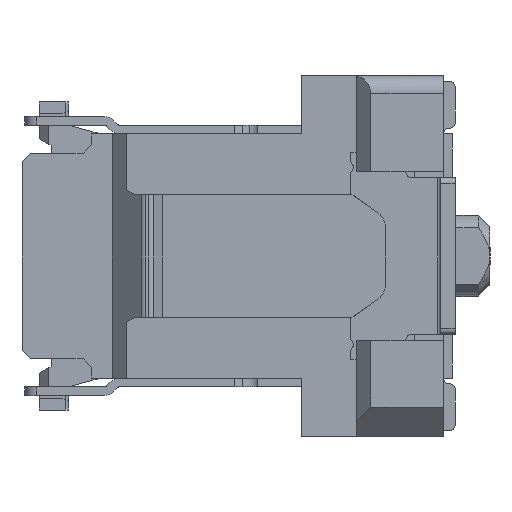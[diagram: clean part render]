
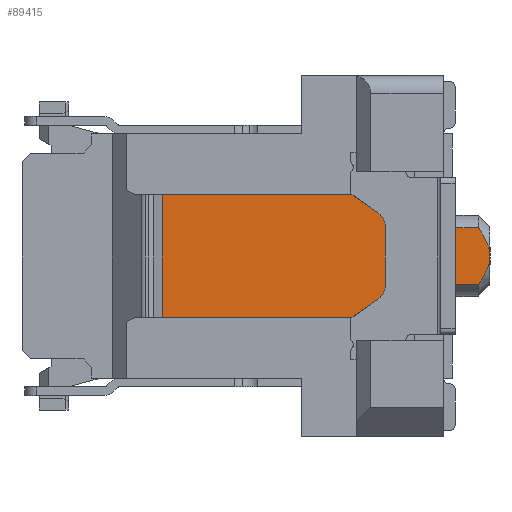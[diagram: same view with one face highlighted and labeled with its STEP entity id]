
A CAD part, left-side view. The second image highlights one B-rep face of the part: STEP entity #89415.
In plain terms, the highlighted planar face has unit normal (-1, 0, 0).
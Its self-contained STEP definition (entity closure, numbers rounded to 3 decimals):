
#376 = CARTESIAN_POINT ( 'NONE',  ( -11.85, -0.6, -0.089 ) ) ;
#2098 = DIRECTION ( 'NONE',  ( 0., -1., 0. ) ) ;
#3744 = CARTESIAN_POINT ( 'NONE',  ( -11.85, 0.2, 1.2 ) ) ;
#5060 = ORIENTED_EDGE ( 'NONE', *, *, #40711, .T. ) ;
#5566 = B_SPLINE_CURVE_WITH_KNOTS ( 'NONE', 3,
 ( #106678, #376, #30930, #137279, #46188, #152560 ),
 .UNSPECIFIED., .F., .F.,
 ( 4, 2, 4 ),
 ( 0.003, 0.003, 0.003 ),
 .UNSPECIFIED. ) ;
#6077 = EDGE_CURVE ( 'NONE', #130035, #162033, #55858, .T. ) ;
#7187 = CARTESIAN_POINT ( 'NONE',  ( -11.85, 0.2, 1.05 ) ) ;
#11269 = CARTESIAN_POINT ( 'NONE',  ( -11.85, -0.6, -0.49 ) ) ;
#13496 = CARTESIAN_POINT ( 'NONE',  ( -11.85, -0.6, -0.49 ) ) ;
#14822 = CARTESIAN_POINT ( 'NONE',  ( -11.85, -0.6, 0. ) ) ;
#15617 = CARTESIAN_POINT ( 'NONE',  ( -11.85, -0.6, 0.49 ) ) ;
#28690 = CARTESIAN_POINT ( 'NONE',  ( -11.85, -0.6, 0. ) ) ;
#28745 = DIRECTION ( 'NONE',  ( 0., 0., 1. ) ) ;
#29409 = CARTESIAN_POINT ( 'NONE',  ( -11.85, -0.4, 0.49 ) ) ;
#30930 = CARTESIAN_POINT ( 'NONE',  ( -11.85, -0.574, -0.178 ) ) ;
#32637 = CARTESIAN_POINT ( 'NONE',  ( -11.85, 7.45, 1.05 ) ) ;
#38898 = VECTOR ( 'NONE', #2098, 1000. ) ;
#40711 = EDGE_CURVE ( 'NONE', #126599, #155998, #186944, .T. ) ;
#42205 = DIRECTION ( 'NONE',  ( 0., -1., 0. ) ) ;
#43596 = LINE ( 'NONE', #32637, #38898 ) ;
#44627 = CARTESIAN_POINT ( 'NONE',  ( -11.85, -0.451, 0.417 ) ) ;
#46188 = CARTESIAN_POINT ( 'NONE',  ( -11.85, -0.451, -0.417 ) ) ;
#47881 = EDGE_CURVE ( 'NONE', #162033, #56911, #190850, .T. ) ;
#51481 = CARTESIAN_POINT ( 'NONE',  ( -11.85, -0.4, -0.49 ) ) ;
#53947 = DIRECTION ( 'NONE',  ( 0., 0., 1. ) ) ;
#54588 = ORIENTED_EDGE ( 'NONE', *, *, #160482, .F. ) ;
#55858 = LINE ( 'NONE', #15617, #91472 ) ;
#56911 = VERTEX_POINT ( 'NONE', #7187 ) ;
#57445 = VERTEX_POINT ( 'NONE', #51481 ) ;
#60462 = CARTESIAN_POINT ( 'NONE',  ( -11.85, -0.4, 0.49 ) ) ;
#62632 = ORIENTED_EDGE ( 'NONE', *, *, #47881, .T. ) ;
#69361 = VECTOR ( 'NONE', #53947, 1000. ) ;
#70550 = LINE ( 'NONE', #11269, #146620 ) ;
#71534 = ORIENTED_EDGE ( 'NONE', *, *, #92289, .F. ) ;
#74602 = LINE ( 'NONE', #148560, #114998 ) ;
#77160 = ORIENTED_EDGE ( 'NONE', *, *, #179809, .F. ) ;
#78846 = EDGE_CURVE ( 'NONE', #85537, #126599, #74602, .T. ) ;
#85537 = VERTEX_POINT ( 'NONE', #178497 ) ;
#89415 = ADVANCED_FACE ( 'NONE', ( #144754 ), #119204, .T. ) ;
#90458 = CARTESIAN_POINT ( 'NONE',  ( -11.85, -0.499, 0.342 ) ) ;
#91472 = VECTOR ( 'NONE', #121932, 1000. ) ;
#92289 = EDGE_CURVE ( 'NONE', #85537, #101306, #140847, .T. ) ;
#94091 = DIRECTION ( 'NONE',  ( 0., 0., 1. ) ) ;
#101306 = VERTEX_POINT ( 'NONE', #149476 ) ;
#103061 = EDGE_LOOP ( 'NONE', ( #71534, #115250, #5060, #112931, #54588, #77160, #145912, #62632, #179409 ) ) ;
#103602 = CARTESIAN_POINT ( 'NONE',  ( -11.85, 0.2, -1.05 ) ) ;
#105174 = CARTESIAN_POINT ( 'NONE',  ( -11.85, 0.2, -0.49 ) ) ;
#105840 = CARTESIAN_POINT ( 'NONE',  ( -11.85, -0.6, 0.09 ) ) ;
#106678 = CARTESIAN_POINT ( 'NONE',  ( -11.85, -0.6, 0. ) ) ;
#112726 = CARTESIAN_POINT ( 'NONE',  ( -11.85, 0.2, 0.49 ) ) ;
#112931 = ORIENTED_EDGE ( 'NONE', *, *, #128232, .F. ) ;
#114998 = VECTOR ( 'NONE', #42205, 1000. ) ;
#115250 = ORIENTED_EDGE ( 'NONE', *, *, #78846, .T. ) ;
#117114 = AXIS2_PLACEMENT_3D ( 'NONE', #13496, #119850, #28745 ) ;
#119204 = PLANE ( 'NONE',  #117114 ) ;
#119850 = DIRECTION ( 'NONE',  ( -1., 0., 0. ) ) ;
#121932 = DIRECTION ( 'NONE',  ( 0., 1., 0. ) ) ;
#126599 = VERTEX_POINT ( 'NONE', #103602 ) ;
#128232 = EDGE_CURVE ( 'NONE', #57445, #155998, #70550, .T. ) ;
#130035 = VERTEX_POINT ( 'NONE', #60462 ) ;
#130384 = CARTESIAN_POINT ( 'NONE',  ( -11.85, 0.2, 1.2 ) ) ;
#131251 = VECTOR ( 'NONE', #188471, 1000. ) ;
#137279 = CARTESIAN_POINT ( 'NONE',  ( -11.85, -0.5, -0.34 ) ) ;
#140847 = LINE ( 'NONE', #173082, #131251 ) ;
#144754 = FACE_OUTER_BOUND ( 'NONE', #103061, .T. ) ;
#145912 = ORIENTED_EDGE ( 'NONE', *, *, #6077, .T. ) ;
#146620 = VECTOR ( 'NONE', #194881, 1000. ) ;
#148560 = CARTESIAN_POINT ( 'NONE',  ( -11.85, 7.45, -1.05 ) ) ;
#149476 = CARTESIAN_POINT ( 'NONE',  ( -11.85, 5.041, 1.05 ) ) ;
#151468 = EDGE_CURVE ( 'NONE', #101306, #56911, #43596, .T. ) ;
#152560 = CARTESIAN_POINT ( 'NONE',  ( -11.85, -0.4, -0.49 ) ) ;
#155998 = VERTEX_POINT ( 'NONE', #105174 ) ;
#160482 = EDGE_CURVE ( 'NONE', #186352, #57445, #5566, .T. ) ;
#162033 = VERTEX_POINT ( 'NONE', #112726 ) ;
#168538 = B_SPLINE_CURVE_WITH_KNOTS ( 'NONE', 3,
 ( #29409, #44627, #90458, #197060, #105840, #14822 ),
 .UNSPECIFIED., .F., .F.,
 ( 4, 2, 4 ),
 ( 0.002, 0.002, 0.003 ),
 .UNSPECIFIED. ) ;
#173082 = CARTESIAN_POINT ( 'NONE',  ( -11.85, 5.041, -1.724 ) ) ;
#178497 = CARTESIAN_POINT ( 'NONE',  ( -11.85, 5.041, -1.05 ) ) ;
#179409 = ORIENTED_EDGE ( 'NONE', *, *, #151468, .F. ) ;
#179809 = EDGE_CURVE ( 'NONE', #130035, #186352, #168538, .T. ) ;
#182181 = VECTOR ( 'NONE', #94091, 1000. ) ;
#186352 = VERTEX_POINT ( 'NONE', #28690 ) ;
#186944 = LINE ( 'NONE', #3744, #182181 ) ;
#188471 = DIRECTION ( 'NONE',  ( 0., 0., 1. ) ) ;
#190850 = LINE ( 'NONE', #130384, #69361 ) ;
#194881 = DIRECTION ( 'NONE',  ( 0., 1., 0. ) ) ;
#197060 = CARTESIAN_POINT ( 'NONE',  ( -11.85, -0.574, 0.179 ) ) ;
